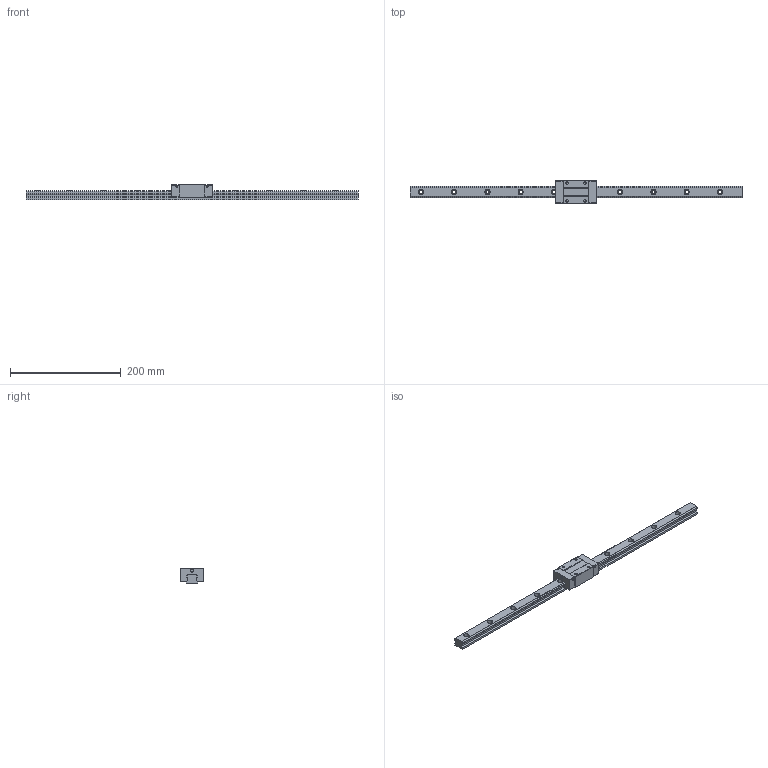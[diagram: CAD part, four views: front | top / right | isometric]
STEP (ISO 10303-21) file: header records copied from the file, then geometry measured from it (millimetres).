
FILE_DESCRIPTION (( 'STEP AP203' ), '1' );
FILE_NAME ('TRS20VN-SU.STEP', '2024-06-26T03:23:18', ( '' ), ( '' ), 'SwSTEP 2.0', 'SolidWorks 2022', '' );
FILE_SCHEMA (( 'CONFIG_CONTROL_DESIGN' ));
Length unit declared in the file: millimetre
Products named in the file (1): TRS20VN-SU
Bounding box: 600 x 42 x 28 mm (x, y, z)
Volume: 222862.6 mm3; surface area: 62978.1 mm2
Topology: 2 solids, 2 shells, 192 faces, 496 edges, 328 vertices
Faces by surface type: cylinder 96, plane 96
Entity records: 6023 total; most frequent: DIRECTION 1074, CARTESIAN_POINT 1017, ORIENTED_EDGE 992, EDGE_CURVE 496, AXIS2_PLACEMENT_3D 385, VERTEX_POINT 328, LINE 304, VECTOR 304
